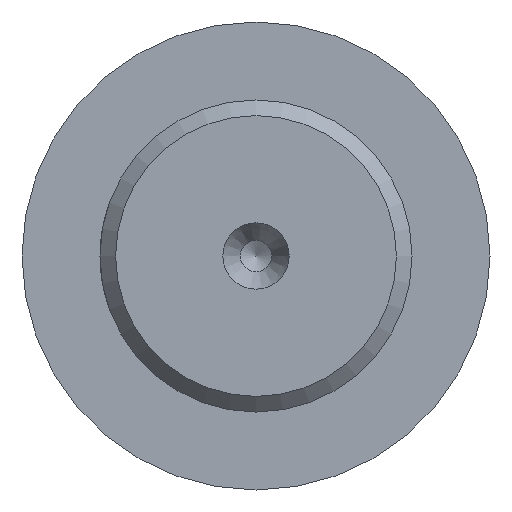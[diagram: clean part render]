
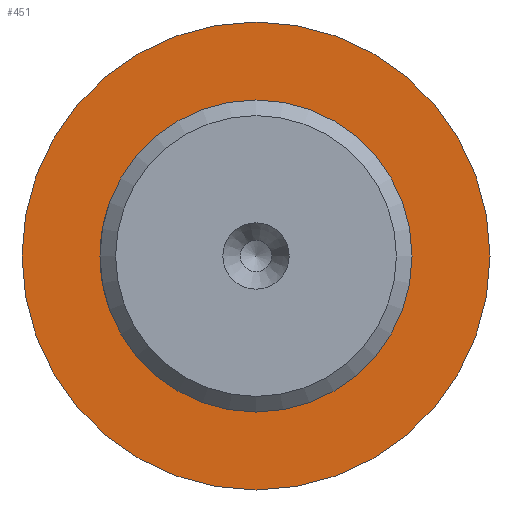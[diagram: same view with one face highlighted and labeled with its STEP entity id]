
A CAD part, left-side view. The second image highlights one B-rep face of the part: STEP entity #451.
In plain terms, the highlighted planar face has unit normal (-1, 0, 0).
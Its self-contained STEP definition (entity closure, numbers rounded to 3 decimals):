
#33=FACE_BOUND('',#102,.T.);
#43=PLANE('',#516);
#71=FACE_OUTER_BOUND('',#101,.T.);
#101=EDGE_LOOP('',(#386));
#102=EDGE_LOOP('',(#387));
#173=CIRCLE('',#495,10.);
#181=CIRCLE('',#517,15.);
#199=VERTEX_POINT('',#692);
#229=VERTEX_POINT('',#859);
#245=EDGE_CURVE('',#199,#199,#173,.T.);
#286=EDGE_CURVE('',#229,#229,#181,.T.);
#386=ORIENTED_EDGE('',*,*,#286,.F.);
#387=ORIENTED_EDGE('',*,*,#245,.T.);
#451=ADVANCED_FACE('',(#71,#33),#43,.T.);
#495=AXIS2_PLACEMENT_3D('',#693,#564,#565);
#516=AXIS2_PLACEMENT_3D('',#858,#627,#628);
#517=AXIS2_PLACEMENT_3D('',#860,#629,#630);
#564=DIRECTION('center_axis',(1.,0.,0.));
#565=DIRECTION('ref_axis',(0.,0.,-1.));
#627=DIRECTION('center_axis',(-1.,0.,0.));
#628=DIRECTION('ref_axis',(0.,0.,1.));
#629=DIRECTION('center_axis',(1.,0.,0.));
#630=DIRECTION('ref_axis',(0.,0.,-1.));
#692=CARTESIAN_POINT('',(40.,-10.,0.));
#693=CARTESIAN_POINT('Origin',(40.,0.,0.));
#858=CARTESIAN_POINT('Origin',(40.,15.,0.));
#859=CARTESIAN_POINT('',(40.,-15.,0.));
#860=CARTESIAN_POINT('Origin',(40.,0.,0.));
